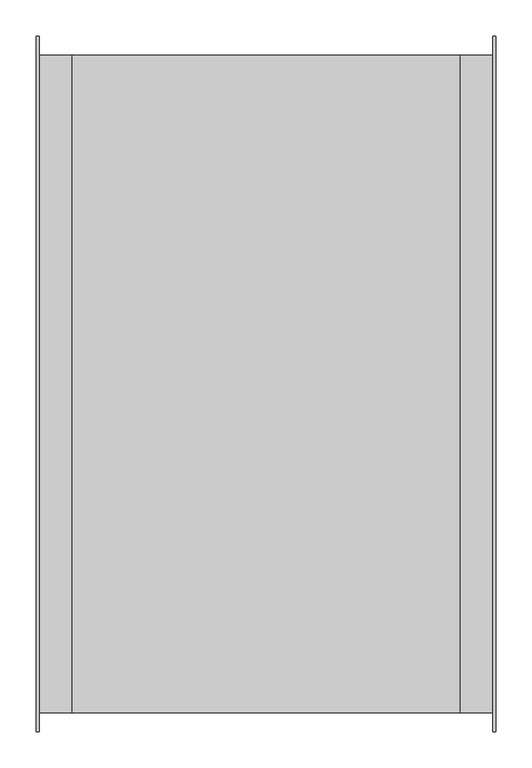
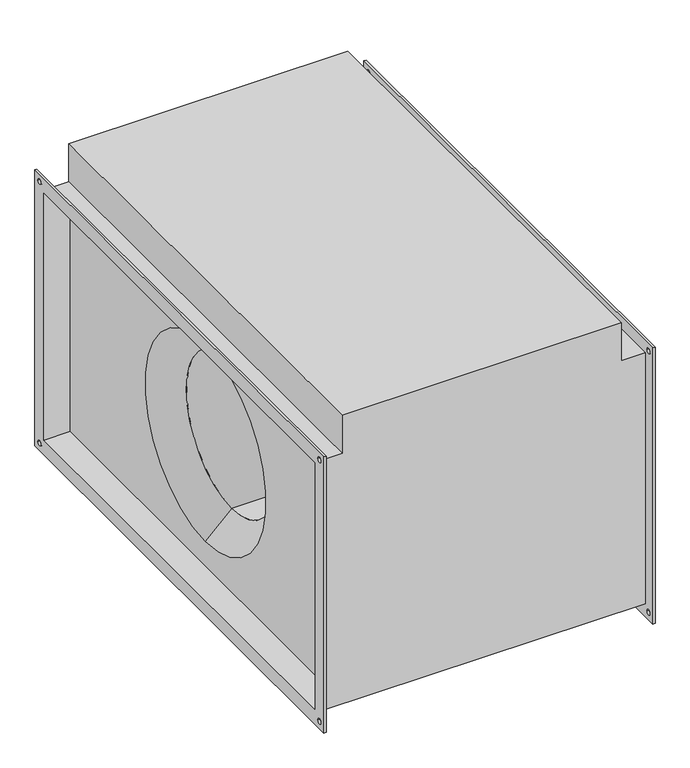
"""IFC4 building model written with IfcOpenShell, lengths in millimetres: proxy geometry."""

from ifc_helpers import new_model, si_unit, frame, origin, place, context, project, spatial, polyline, circle_curve, source, transform, mapped, element, save
from ifc_brep_helpers import plane_surface, revolved_surface, advanced_brep


def mechanical_equipment_da63913f(model_context):
    return source(origin(), model_context, "Body", "AdvancedBrep", [
        advanced_brep(
        [(-313.5, -454.0, 254.0), (-267.5, -454.0, 254.0), (-267.5, 454.0, 254.0), (-313.5, 454.0, 254.0), (267.5, 454.0, 331.0), (267.5, -454.0, 331.0), (267.5, -454.0, 254.0), (267.5, 454.0, 254.0), (267.5, 450.0, -250.0), (267.5, 450.0, 250.0), (267.5, -450.0, 250.0), (267.5, -450.0, -250.0), (267.5, 0.0, 200.0), (267.5, 0.0, -200.0), (-267.5, 450.0, 250.0), (-267.5, 450.0, -250.0), (-267.5, -450.0, -250.0), (-267.5, -450.0, 250.0), (-267.5, 0.0, -200.0), (-267.5, 0.0, 200.0), (-267.5, -454.0, 331.0), (-267.5, 454.0, 331.0), (-313.5, -454.0, -254.0), (313.5, -454.0, -254.0), (313.5, -454.0, 254.0), (-313.5, 454.0, -254.0), (313.5, 454.0, -254.0), (313.5, 454.0, 254.0), (217.5, 0.0, -150.0), (217.5, 0.0, 150.0), (-217.5, 0.0, 150.0), (-217.5, 0.0, -150.0), (-317.5, -480.0, 280.0), (-317.5, 480.0, 280.0), (-317.5, 480.0, -280.0), (-317.5, -480.0, -280.0), (-317.5, -450.0, 250.0), (-317.5, -450.0, -250.0), (-317.5, 450.0, -250.0), (-317.5, 450.0, 250.0), (-317.5, 460.0, 265.0), (-317.5, 470.0, 265.0), (-317.5, -470.0, 265.0), (-317.5, -460.0, 265.0), (-317.5, -470.0, -265.0), (-317.5, -460.0, -265.0), (-317.5, 460.0, -265.0), (-317.5, 470.0, -265.0), (-313.5, -480.0, 280.0), (-313.5, -480.0, -280.0), (-313.5, 480.0, -280.0), (-313.5, 480.0, 280.0), (-313.5, 470.0, 265.0), (-313.5, 460.0, 265.0), (-313.5, -460.0, 265.0), (-313.5, -470.0, 265.0), (-313.5, -460.0, -265.0), (-313.5, -470.0, -265.0), (-313.5, 470.0, -265.0), (-313.5, 460.0, -265.0), (313.5, 480.0, 280.0), (313.5, 480.0, -280.0), (313.5, -480.0, -280.0), (313.5, -480.0, 280.0), (313.5, 460.0, 265.0), (313.5, 470.0, 265.0), (313.5, -470.0, 265.0), (313.5, -460.0, 265.0), (313.5, -470.0, -265.0), (313.5, -460.0, -265.0), (313.5, 460.0, -265.0), (313.5, 470.0, -265.0), (317.5, 480.0, 280.0), (317.5, -480.0, 280.0), (317.5, -480.0, -280.0), (317.5, 480.0, -280.0), (317.5, 450.0, 250.0), (317.5, 450.0, -250.0), (317.5, -450.0, -250.0), (317.5, -450.0, 250.0), (317.5, 470.0, 265.0), (317.5, 460.0, 265.0), (317.5, -460.0, 265.0), (317.5, -470.0, 265.0), (317.5, -460.0, -265.0), (317.5, -470.0, -265.0), (317.5, 470.0, -265.0), (317.5, 460.0, -265.0)],
        [
            (0, 1),
            (1, 2),
            (2, 3),
            (3, 0),
            (4, 5),
            (5, 6),
            (6, 7),
            (7, 4),
            (8, 9),
            (9, 10),
            (10, 11),
            (11, 8),
            (12, 13, circle_curve(frame((267.5, 0.0, 0.0), z_axis=(-1.0, 0.0, 0.0), x_axis=(0.0, 0.0, 1.0)), 200.0)),
            (13, 12, circle_curve(frame((267.5, 0.0, 0.0), z_axis=(-1.0, 0.0, 0.0), x_axis=(0.0, 0.0, 1.0)), 200.0)),
            (14, 15),
            (15, 16),
            (16, 17),
            (17, 14),
            (18, 19, circle_curve(frame((-267.5, 0.0, 0.0), z_axis=(1.0, 0.0, 0.0), x_axis=(0.0, 0.0, 1.0)), 200.0)),
            (19, 18, circle_curve(frame((-267.5, 0.0, 0.0), z_axis=(1.0, 0.0, 0.0), x_axis=(0.0, 0.0, 1.0)), 200.0)),
            (20, 21),
            (21, 2),
            (1, 20),
            (5, 20),
            (0, 22),
            (22, 23),
            (23, 24),
            (24, 6),
            (22, 25),
            (25, 26),
            (26, 23),
            (21, 4),
            (7, 27),
            (27, 26),
            (25, 3),
            (24, 27),
            (28, 13),
            (12, 29),
            (29, 28, circle_curve(frame((217.5, 0.0, 0.0), z_axis=(-1.0, 0.0, 0.0), x_axis=(0.0, 0.0, 1.0)), 150.0)),
            (28, 29, circle_curve(frame((217.5, 0.0, 0.0), z_axis=(-1.0, 0.0, 0.0), x_axis=(0.0, 0.0, 1.0)), 150.0)),
            (29, 30),
            (30, 31, circle_curve(frame((-217.5, 0.0, 0.0), z_axis=(-1.0, 0.0, 0.0), x_axis=(0.0, 0.0, 1.0)), 150.0)),
            (31, 28),
            (31, 30, circle_curve(frame((-217.5, 0.0, 0.0), z_axis=(-1.0, 0.0, 0.0), x_axis=(0.0, 0.0, 1.0)), 150.0)),
            (30, 19),
            (18, 31),
            (32, 33),
            (33, 34),
            (34, 35),
            (35, 32),
            (36, 37),
            (37, 38),
            (38, 39),
            (39, 36),
            (40, 41, circle_curve(frame((-317.5, 465.0, 265.0), z_axis=(1.0, 0.0, 0.0), x_axis=(0.0, 1.0, 0.0)), 5.0)),
            (41, 40, circle_curve(frame((-317.5, 465.0, 265.0), z_axis=(1.0, 0.0, 0.0), x_axis=(0.0, 1.0, 0.0)), 5.0)),
            (42, 43, circle_curve(frame((-317.5, -465.0, 265.0), z_axis=(1.0, 0.0, 0.0), x_axis=(0.0, 1.0, 0.0)), 5.0)),
            (43, 42, circle_curve(frame((-317.5, -465.0, 265.0), z_axis=(1.0, 0.0, 0.0), x_axis=(0.0, 1.0, 0.0)), 5.0)),
            (44, 45, circle_curve(frame((-317.5, -465.0, -265.0), z_axis=(1.0, 0.0, 0.0), x_axis=(0.0, 1.0, 0.0)), 5.0)),
            (45, 44, circle_curve(frame((-317.5, -465.0, -265.0), z_axis=(1.0, 0.0, 0.0), x_axis=(0.0, 1.0, 0.0)), 5.0)),
            (46, 47, circle_curve(frame((-317.5, 465.0, -265.0), z_axis=(1.0, 0.0, 0.0), x_axis=(0.0, 1.0, 0.0)), 5.0)),
            (47, 46, circle_curve(frame((-317.5, 465.0, -265.0), z_axis=(1.0, 0.0, 0.0), x_axis=(0.0, 1.0, 0.0)), 5.0)),
            (48, 49),
            (49, 50),
            (50, 51),
            (51, 48),
            (52, 53, circle_curve(frame((-313.5, 465.0, 265.0), z_axis=(-1.0, 0.0, 0.0), x_axis=(0.0, 1.0, 0.0)), 5.0)),
            (53, 52, circle_curve(frame((-313.5, 465.0, 265.0), z_axis=(-1.0, 0.0, 0.0), x_axis=(0.0, 1.0, 0.0)), 5.0)),
            (54, 55, circle_curve(frame((-313.5, -465.0, 265.0), z_axis=(-1.0, 0.0, 0.0), x_axis=(0.0, 1.0, 0.0)), 5.0)),
            (55, 54, circle_curve(frame((-313.5, -465.0, 265.0), z_axis=(-1.0, 0.0, 0.0), x_axis=(0.0, 1.0, 0.0)), 5.0)),
            (56, 57, circle_curve(frame((-313.5, -465.0, -265.0), z_axis=(-1.0, 0.0, 0.0), x_axis=(0.0, 1.0, 0.0)), 5.0)),
            (57, 56, circle_curve(frame((-313.5, -465.0, -265.0), z_axis=(-1.0, 0.0, 0.0), x_axis=(0.0, 1.0, 0.0)), 5.0)),
            (58, 59, circle_curve(frame((-313.5, 465.0, -265.0), z_axis=(-1.0, 0.0, 0.0), x_axis=(0.0, 1.0, 0.0)), 5.0)),
            (59, 58, circle_curve(frame((-313.5, 465.0, -265.0), z_axis=(-1.0, 0.0, 0.0), x_axis=(0.0, 1.0, 0.0)), 5.0)),
            (35, 49),
            (48, 32),
            (34, 50),
            (33, 51),
            (60, 61),
            (61, 62),
            (62, 63),
            (63, 60),
            (64, 65, circle_curve(frame((313.5, 465.0, 265.0), z_axis=(1.0, 0.0, 0.0), x_axis=(0.0, 1.0, 0.0)), 5.0)),
            (65, 64, circle_curve(frame((313.5, 465.0, 265.0), z_axis=(1.0, 0.0, 0.0), x_axis=(0.0, 1.0, 0.0)), 5.0)),
            (66, 67, circle_curve(frame((313.5, -465.0, 265.0), z_axis=(1.0, 0.0, 0.0), x_axis=(0.0, 1.0, 0.0)), 5.0)),
            (67, 66, circle_curve(frame((313.5, -465.0, 265.0), z_axis=(1.0, 0.0, 0.0), x_axis=(0.0, 1.0, 0.0)), 5.0)),
            (68, 69, circle_curve(frame((313.5, -465.0, -265.0), z_axis=(1.0, 0.0, 0.0), x_axis=(0.0, 1.0, 0.0)), 5.0)),
            (69, 68, circle_curve(frame((313.5, -465.0, -265.0), z_axis=(1.0, 0.0, 0.0), x_axis=(0.0, 1.0, 0.0)), 5.0)),
            (70, 71, circle_curve(frame((313.5, 465.0, -265.0), z_axis=(1.0, 0.0, 0.0), x_axis=(0.0, 1.0, 0.0)), 5.0)),
            (71, 70, circle_curve(frame((313.5, 465.0, -265.0), z_axis=(1.0, 0.0, 0.0), x_axis=(0.0, 1.0, 0.0)), 5.0)),
            (72, 73),
            (73, 74),
            (74, 75),
            (75, 72),
            (76, 77),
            (77, 78),
            (78, 79),
            (79, 76),
            (80, 81, circle_curve(frame((317.5, 465.0, 265.0), z_axis=(-1.0, 0.0, 0.0), x_axis=(0.0, 1.0, 0.0)), 5.0)),
            (81, 80, circle_curve(frame((317.5, 465.0, 265.0), z_axis=(-1.0, 0.0, 0.0), x_axis=(0.0, 1.0, 0.0)), 5.0)),
            (82, 83, circle_curve(frame((317.5, -465.0, 265.0), z_axis=(-1.0, 0.0, 0.0), x_axis=(0.0, 1.0, 0.0)), 5.0)),
            (83, 82, circle_curve(frame((317.5, -465.0, 265.0), z_axis=(-1.0, 0.0, 0.0), x_axis=(0.0, 1.0, 0.0)), 5.0)),
            (84, 85, circle_curve(frame((317.5, -465.0, -265.0), z_axis=(-1.0, 0.0, 0.0), x_axis=(0.0, 1.0, 0.0)), 5.0)),
            (85, 84, circle_curve(frame((317.5, -465.0, -265.0), z_axis=(-1.0, 0.0, 0.0), x_axis=(0.0, 1.0, 0.0)), 5.0)),
            (86, 87, circle_curve(frame((317.5, 465.0, -265.0), z_axis=(-1.0, 0.0, 0.0), x_axis=(0.0, 1.0, 0.0)), 5.0)),
            (87, 86, circle_curve(frame((317.5, 465.0, -265.0), z_axis=(-1.0, 0.0, 0.0), x_axis=(0.0, 1.0, 0.0)), 5.0)),
            (63, 73),
            (72, 60),
            (62, 74),
            (61, 75),
            (39, 14),
            (17, 36),
            (38, 15),
            (37, 16),
            (76, 9),
            (8, 77),
            (11, 78),
            (10, 79),
            (40, 53),
            (52, 41),
            (64, 81),
            (80, 65),
            (42, 55),
            (54, 43),
            (66, 83),
            (82, 67),
            (44, 57),
            (56, 45),
            (68, 85),
            (84, 69),
            (46, 59),
            (58, 47),
            (70, 87),
            (86, 71),
        ],
        [
            plane_surface(frame((-267.5, 454.0, 254.0), z_axis=(0.0, 0.0, 1.0), x_axis=(-1.0, 0.0, 0.0))),
            plane_surface(frame((267.5, -454.0, 331.0), z_axis=(1.0, 0.0, 0.0), x_axis=(0.0, 0.0, -1.0))),
            plane_surface(frame((-267.5, -454.0, 331.0), z_axis=(-1.0, 0.0, 0.0), x_axis=(0.0, 0.0, 1.0))),
            plane_surface(frame((267.5, -454.0, 331.0), z_axis=(0.0, -1.0, 0.0), x_axis=(-1.0, 0.0, 0.0))),
            plane_surface(frame((267.5, -454.0, -254.0), z_axis=(0.0, 0.0, -1.0), x_axis=(-1.0, 0.0, 0.0))),
            plane_surface(frame((267.5, 454.0, -254.0), z_axis=(0.0, 1.0, 0.0), x_axis=(-1.0, 0.0, 0.0))),
            plane_surface(frame((267.5, 454.0, 331.0), z_axis=(0.0, 0.0, 1.0), x_axis=(-1.0, 0.0, 0.0))),
            plane_surface(frame((313.5, 454.0, 254.0), z_axis=(0.0, 0.0, 1.0), x_axis=(-1.0, 0.0, 0.0))),
            revolved_surface(polyline([(217.5, 0.0, 150.0), (267.5, 0.0, 200.0)]), (-704.5617897, 0.0, 0.0), (-1.0, 0.0, 0.0)),
            revolved_surface(polyline([(-217.5, 0.0, 150.0), (217.5, 0.0, 150.0)]), (-704.5617897, 0.0, 0.0), (-1.0, 0.0, 0.0)),
            revolved_surface(polyline([(-267.5, 0.0, 200.0), (-217.5, 0.0, 150.0)]), (-704.5617897, 0.0, 0.0), (-1.0, 0.0, 0.0)),
            plane_surface(frame((-317.5, -480.0, 280.0), z_axis=(-1.0, 0.0, 0.0), x_axis=(0.0, 0.0, 1.0))),
            plane_surface(frame((-313.5, -480.0, 280.0), z_axis=(1.0, 0.0, 0.0), x_axis=(0.0, 0.0, -1.0))),
            plane_surface(frame((-313.5, -480.0, 280.0), z_axis=(0.0, -1.0, 0.0), x_axis=(-1.0, 0.0, 0.0))),
            plane_surface(frame((-313.5, -480.0, -280.0), z_axis=(0.0, 0.0, -1.0), x_axis=(-1.0, 0.0, 0.0))),
            plane_surface(frame((-313.5, 480.0, -280.0), z_axis=(0.0, 1.0, 0.0), x_axis=(-1.0, 0.0, 0.0))),
            plane_surface(frame((-313.5, 480.0, 280.0), z_axis=(0.0, 0.0, 1.0), x_axis=(-1.0, 0.0, 0.0))),
            plane_surface(frame((313.5, 450.0, -250.0), z_axis=(-1.0, 0.0, 0.0), x_axis=(0.0, 0.0, 1.0))),
            plane_surface(frame((317.5, 450.0, -250.0), z_axis=(1.0, 0.0, 0.0), x_axis=(0.0, 0.0, -1.0))),
            plane_surface(frame((317.5, 480.0, 280.0), z_axis=(0.0, 0.0, 1.0), x_axis=(-1.0, 0.0, 0.0))),
            plane_surface(frame((317.5, -480.0, 280.0), z_axis=(0.0, -1.0, 0.0), x_axis=(-1.0, 0.0, 0.0))),
            plane_surface(frame((317.5, -480.0, -280.0), z_axis=(0.0, 0.0, -1.0), x_axis=(-1.0, 0.0, 0.0))),
            plane_surface(frame((317.5, 480.0, -280.0), z_axis=(0.0, 1.0, 0.0), x_axis=(-1.0, 0.0, 0.0))),
            plane_surface(frame((-313.5, -450.0, 250.0), z_axis=(0.0, 0.0, -1.0), x_axis=(-1.0, 0.0, 0.0))),
            plane_surface(frame((-313.5, 450.0, 250.0), z_axis=(0.0, -1.0, 0.0), x_axis=(-1.0, 0.0, 0.0))),
            plane_surface(frame((-313.5, 450.0, -250.0), z_axis=(0.0, 0.0, 1.0), x_axis=(-1.0, 0.0, 0.0))),
            plane_surface(frame((-313.5, -450.0, -250.0), z_axis=(0.0, 1.0, 0.0), x_axis=(-1.0, 0.0, 0.0))),
            plane_surface(frame((317.5, 450.0, 250.0), z_axis=(0.0, -1.0, 0.0), x_axis=(-1.0, 0.0, 0.0))),
            plane_surface(frame((317.5, 450.0, -250.0), z_axis=(0.0, 0.0, 1.0), x_axis=(-1.0, 0.0, 0.0))),
            plane_surface(frame((317.5, -450.0, -250.0), z_axis=(0.0, 1.0, 0.0), x_axis=(-1.0, 0.0, 0.0))),
            plane_surface(frame((317.5, -450.0, 250.0), z_axis=(0.0, 0.0, -1.0), x_axis=(-1.0, 0.0, 0.0))),
            revolved_surface(polyline([(-313.5, 470.0, 265.0), (-317.5, 470.0, 265.0)]), (-317.5, 465.0, 265.0), (1.0, 0.0, 0.0)),
            revolved_surface(polyline([(317.5, 470.0, 265.0), (313.5, 470.0, 265.0)]), (-317.5, 465.0, 265.0), (1.0, 0.0, 0.0)),
            revolved_surface(polyline([(-313.5, -460.0, 265.0), (-317.5, -460.0, 265.0)]), (0.0, -465.0, 265.0), (1.0, 0.0, 0.0)),
            revolved_surface(polyline([(317.5, -460.0, 265.0), (313.5, -460.0, 265.0)]), (0.0, -465.0, 265.0), (1.0, 0.0, 0.0)),
            revolved_surface(polyline([(-313.5, -460.0, -265.0), (-317.5, -460.0, -265.0)]), (0.0, -465.0, -265.0), (1.0, 0.0, 0.0)),
            revolved_surface(polyline([(317.5, -460.0, -265.0), (313.5, -460.0, -265.0)]), (0.0, -465.0, -265.0), (1.0, 0.0, 0.0)),
            revolved_surface(polyline([(-313.5, 470.0, -265.0), (-317.5, 470.0, -265.0)]), (0.0, 465.0, -265.0), (1.0, 0.0, 0.0)),
            revolved_surface(polyline([(317.5, 470.0, -265.0), (313.5, 470.0, -265.0)]), (0.0, 465.0, -265.0), (1.0, 0.0, 0.0)),
        ],
        [
            (0, [[1, 2, 3, 4]]),
            (1, [[5, 6, 7, 8]]),
            (1, [[9, 10, 11, 12], [13, 14]]),
            (2, [[15, 16, 17, 18], [19, 20]]),
            (2, [[21, 22, -2, 23]]),
            (3, [[24, -23, -1, 25, 26, 27, 28, -6]]),
            (4, [[-26, 29, 30, 31]]),
            (5, [[32, -8, 33, 34, -30, 35, -3, -22]]),
            (6, [[-5, -32, -21, -24]]),
            (7, [[-28, 36, -33, -7]]),
            (8, [[37, -13, 38, 39]]),
            (8, [[-37, 40, -38, -14]]),
            (9, [[-39, 41, 42, 43]]),
            (9, [[-40, -43, 44, -41]]),
            (10, [[-42, 45, -19, 46]]),
            (10, [[-44, -46, -20, -45]]),
            (11, [[47, 48, 49, 50], [51, 52, 53, 54], [55, 56], [57, 58], [59, 60], [61, 62]]),
            (12, [[63, 64, 65, 66], [-25, -4, -35, -29], [67, 68], [69, 70], [71, 72], [73, 74]]),
            (13, [[-50, 75, -63, 76]]),
            (14, [[-49, 77, -64, -75]]),
            (15, [[-48, 78, -65, -77]]),
            (16, [[-47, -76, -66, -78]]),
            (17, [[79, 80, 81, 82], [-27, -31, -34, -36], [83, 84], [85, 86], [87, 88], [89, 90]]),
            (18, [[91, 92, 93, 94], [95, 96, 97, 98], [99, 100], [101, 102], [103, 104], [105, 106]]),
            (19, [[-82, 107, -91, 108]]),
            (20, [[-81, 109, -92, -107]]),
            (21, [[-80, 110, -93, -109]]),
            (22, [[-79, -108, -94, -110]]),
            (23, [[-54, 111, -18, 112]]),
            (24, [[-53, 113, -15, -111]]),
            (25, [[-52, 114, -16, -113]]),
            (26, [[-51, -112, -17, -114]]),
            (27, [[-95, 115, -9, 116]]),
            (28, [[-96, -116, -12, 117]]),
            (29, [[-97, -117, -11, 118]]),
            (30, [[-115, -98, -118, -10]]),
            (31, [[119, -67, 120, -55]]),
            (32, [[121, -99, 122, -83]]),
            (31, [[-119, -56, -120, -68]]),
            (32, [[-121, -84, -122, -100]]),
            (33, [[123, -69, 124, -57]]),
            (34, [[125, -101, 126, -85]]),
            (33, [[-123, -58, -124, -70]]),
            (34, [[-125, -86, -126, -102]]),
            (35, [[127, -71, 128, -59]]),
            (36, [[129, -103, 130, -87]]),
            (35, [[-127, -60, -128, -72]]),
            (36, [[-129, -88, -130, -104]]),
            (37, [[131, -73, 132, -61]]),
            (38, [[133, -105, 134, -89]]),
            (37, [[-131, -62, -132, -74]]),
            (38, [[-133, -90, -134, -106]]),
        ],
    ),
    ])


if __name__ == "__main__":
    model = new_model("IFC4")
    model_context = context("Model", 3, world=origin())
    ifc_project = project(units=[si_unit("LENGTHUNIT", "METRE", prefix="MILLI")], contexts=[model_context])
    site = spatial("IfcSite", under=ifc_project)
    building = spatial("IfcBuilding", under=site)
    placement = place(None, origin())
    mechanical_equipment_shape = mechanical_equipment_da63913f(model_context)
    element("IfcBuildingElementProxy", 1, Name="Mechanical Equipment", at=placement, inside=building, context=model_context, shape_type="MappedRepresentation", body=[
        mapped(mechanical_equipment_shape, transform((0.0, 0.0, 0.0), x_axis=(1.0, 0.0, 0.0), y_axis=(0.0, 1.0, 0.0), z_axis=(0.0, 0.0, 1.0))),
    ])
    save(model, "model.ifc")
